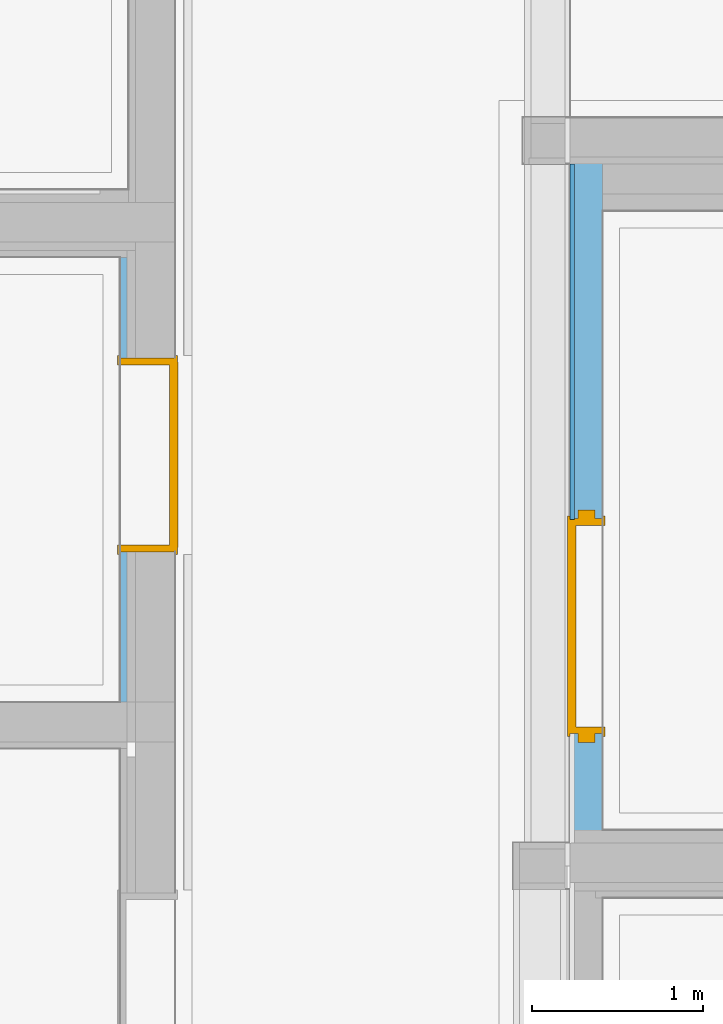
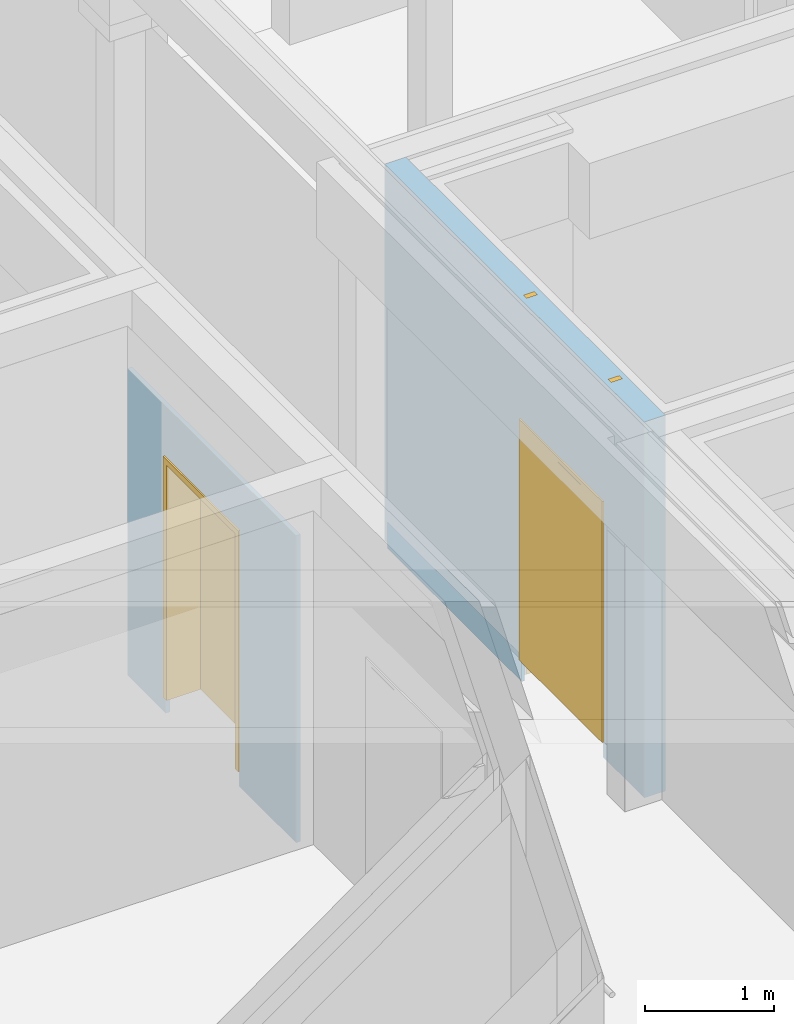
# One storey, part 119 of 222: 2 doors, 1 wall, 2 openings, plus 2 elements that do not belong to this part.
"""IFC4 building model written with IfcOpenShell, lengths in metres."""

from ifc_helpers import new_model, entity, si_unit, converted_unit, derived_unit, frame, frame_2d, origin, origin_with_axes, place, context, subcontext, project, spatial, polyline, rectangle, outline, extrude, faceted_brep, source, transform, mapped, material, type_object, element, fill, save


model = new_model("IFC4")

# Units and contexts
model_context = context("Model", 3, precision=1e-05, world=origin())
body_context = subcontext(model_context, "Body", "Model", "MODEL_VIEW")
ifc_project = project(units=[si_unit("LENGTHUNIT", "METRE"), si_unit("AREAUNIT", "SQUARE_METRE"), si_unit("VOLUMEUNIT", "CUBIC_METRE"), si_unit("MASSUNIT", "GRAM", prefix="KILO"), converted_unit("PLANEANGLEUNIT", "DEGREE", entity("IfcPlaneAngleMeasure", 0.0174532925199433), si_unit("PLANEANGLEUNIT", "RADIAN"), dimensions=[0, 0, 0, 0, 0, 0, 0]), derived_unit("THERMALTRANSMITTANCEUNIT", [(si_unit("POWERUNIT", "WATT"), 1), (si_unit("THERMODYNAMICTEMPERATUREUNIT", "KELVIN"), -1), (si_unit("LENGTHUNIT", "METRE"), -2)]), derived_unit("VOLUMETRICFLOWRATEUNIT", [(si_unit("LENGTHUNIT", "METRE"), 3), (converted_unit("TIMEUNIT", "hour", entity("IfcTimeMeasure", 3600.0), si_unit("TIMEUNIT", "SECOND"), dimensions=[0, 0, 1, 0, 0, 0, 0]), -1), (si_unit("LENGTHUNIT", "METRE"), -1)])], contexts=[model_context])

# Site, building, storey
site_placement = place(None, origin())
site = spatial("IfcSite", under=ifc_project, at=site_placement, Name="Psychiatrie Neubau Wunstorf", CompositionType="ELEMENT")
building_placement = place(site_placement, origin())
building = spatial("IfcBuilding", under=site, at=building_placement, Name="Neubau H2 Stationsgebäude", CompositionType="ELEMENT")
storey_placement = place(building_placement, frame((0.0, 0.0, 3.6)))
storey = spatial("IfcBuildingStorey", under=building, at=storey_placement, Name="H2 Ebene +1", CompositionType="ELEMENT", Elevation=3.6)

# Wall, opening, door
ifc_material_1 = material(Name="WI-LB")
wall_1_placement = place(storey_placement, frame((67.7955, 16.014000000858, 0.0), z_axis=(0.0, 0.0, 1.0), x_axis=(0.0, -1.0, 0.0)))
wall_1 = element("IfcWall", 1, at=wall_1_placement, inside=storey, material=ifc_material_1, context=body_context, shape_type="SweptSolid", body=[
    extrude(rectangle(XDim=2.60450336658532, YDim=0.04, at=frame_2d((1.30225168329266, 0.02), x_axis=(1.0, 0.0))), origin_with_axes(), (0.0, 0.0, 1.0), 2.9),
])
opening_1_placement = place(wall_1_placement, frame((1.724, 0.04, 0.0), z_axis=(0.0, -1.0, 0.0), x_axis=(0.0, 0.0, 1.0)))
opening_1 = element("IfcOpeningElement", 2, at=opening_1_placement, cuts=wall_1, Name="Türöffnung", ObjectType="Opening", context=body_context, shape_type="SweptSolid", body=[
    extrude(outline(polyline([(2.41, 1.135), (2.41, 0.0), (0.0, 0.0), (0.0, 1.135), (2.41, 1.135)])), origin_with_axes(), (0.0, 0.0, 1.0), 0.04),
])
ifc_material_2 = material(Name="TI-1F-UZ-D")
door_type_1 = type_object("IfcDoorType", Name="SMT", OperationType="SINGLE_SWING_RIGHT", ParameterTakesPrecedence=False, PredefinedType="DOOR")
shared_shape_1 = source(origin_with_axes(), body_context, "Body", "Brep", [
    faceted_brep([(0.0, -0.0150000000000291, 2.41), (0.0400000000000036, -0.0150000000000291, 2.41), (0.0400000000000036, -0.0150000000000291, 0.15), (0.0, -0.0150000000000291, 0.15), (0.0, 0.336999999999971, 0.15), (0.0400000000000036, 0.336999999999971, 0.15), (0.0400000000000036, 0.336999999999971, 2.41), (0.0, 0.336999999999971, 2.41)], [[[0, 1, 2, 3]], [[4, 5, 6, 7]], [[3, 4, 7, 0]], [[2, 5, 4, 3]], [[1, 6, 5, 2]], [[0, 7, 6, 1]]], orient=[[False], [False], [False], [False], [False], [False]]),
    faceted_brep([(0.0, -0.0150000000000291, 2.425), (0.0, -0.0150000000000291, 0.15), (-0.0149999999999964, -0.0150000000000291, 0.15), (-0.0149999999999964, -0.0150000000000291, 2.425), (0.0, 0.0, 0.15), (0.0, 0.0, 2.425), (-0.0149999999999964, 0.0, 2.425), (-0.0149999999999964, 0.0, 0.15)], [[[0, 1, 2, 3]], [[4, 5, 6, 7]], [[1, 0, 5, 4]], [[2, 1, 4, 7]], [[3, 2, 7, 6]], [[0, 3, 6, 5]]], orient=[[False], [False], [False], [False], [False], [False]]),
    faceted_brep([(0.0, 0.321999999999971, 2.425), (0.0, 0.321999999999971, 0.15), (-0.0149999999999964, 0.321999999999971, 0.15), (-0.0149999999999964, 0.321999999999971, 2.425), (0.0, 0.336999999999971, 0.15), (0.0, 0.336999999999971, 2.425), (-0.0149999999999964, 0.336999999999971, 2.425), (-0.0149999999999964, 0.336999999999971, 0.15)], [[[0, 1, 2, 3]], [[4, 5, 6, 7]], [[1, 0, 5, 4]], [[2, 1, 4, 7]], [[3, 2, 7, 6]], [[0, 3, 6, 5]]], orient=[[False], [False], [False], [False], [False], [False]]),
    faceted_brep([(1.095, -0.0150000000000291, 2.41), (1.135, -0.0150000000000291, 2.41), (1.135, -0.0150000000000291, 0.15), (1.095, -0.0150000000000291, 0.15), (1.095, 0.336999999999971, 0.15), (1.135, 0.336999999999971, 0.15), (1.135, 0.336999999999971, 2.41), (1.095, 0.336999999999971, 2.41)], [[[0, 1, 2, 3]], [[4, 5, 6, 7]], [[3, 4, 7, 0]], [[2, 5, 4, 3]], [[1, 6, 5, 2]], [[0, 7, 6, 1]]], orient=[[False], [False], [False], [False], [False], [False]]),
    faceted_brep([(1.135, -0.0150000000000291, 2.425), (1.15, -0.0150000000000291, 2.425), (1.15, -0.0150000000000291, 0.15), (1.135, -0.0150000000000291, 0.15), (1.135, 0.0, 0.15), (1.15, 0.0, 0.15), (1.15, 0.0, 2.425), (1.135, 0.0, 2.425)], [[[0, 1, 2, 3]], [[4, 5, 6, 7]], [[3, 4, 7, 0]], [[2, 5, 4, 3]], [[1, 6, 5, 2]], [[0, 7, 6, 1]]], orient=[[False], [False], [False], [False], [False], [False]]),
    faceted_brep([(1.135, 0.321999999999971, 2.425), (1.15, 0.321999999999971, 2.425), (1.15, 0.321999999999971, 0.15), (1.135, 0.321999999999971, 0.15), (1.135, 0.336999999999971, 0.15), (1.15, 0.336999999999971, 0.15), (1.15, 0.336999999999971, 2.425), (1.135, 0.336999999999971, 2.425)], [[[0, 1, 2, 3]], [[4, 5, 6, 7]], [[3, 4, 7, 0]], [[2, 5, 4, 3]], [[1, 6, 5, 2]], [[0, 7, 6, 1]]], orient=[[False], [False], [False], [False], [False], [False]]),
    faceted_brep([(0.0400000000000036, -0.0150000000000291, 2.41), (1.095, -0.0150000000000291, 2.41), (1.095, -0.0150000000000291, 2.37), (0.0400000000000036, -0.0150000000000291, 2.37), (0.0400000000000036, 0.336999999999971, 2.37), (1.095, 0.336999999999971, 2.37), (1.095, 0.336999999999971, 2.41), (0.0400000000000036, 0.336999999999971, 2.41)], [[[0, 1, 2, 3]], [[4, 5, 6, 7]], [[3, 4, 7, 0]], [[2, 5, 4, 3]], [[1, 6, 5, 2]], [[0, 7, 6, 1]]], orient=[[False], [False], [False], [False], [False], [False]]),
    faceted_brep([(0.0, -0.0150000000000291, 2.425), (1.135, -0.0150000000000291, 2.425), (1.135, -0.0150000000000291, 2.41), (0.0, -0.0150000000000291, 2.41), (0.0, 0.0, 2.41), (1.135, 0.0, 2.41), (1.135, 0.0, 2.425), (0.0, 0.0, 2.425)], [[[0, 1, 2, 3]], [[4, 5, 6, 7]], [[3, 4, 7, 0]], [[2, 5, 4, 3]], [[1, 6, 5, 2]], [[0, 7, 6, 1]]], orient=[[False], [False], [False], [False], [False], [False]]),
    faceted_brep([(0.0, 0.321999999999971, 2.425), (1.135, 0.321999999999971, 2.425), (1.135, 0.321999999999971, 2.41), (0.0, 0.321999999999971, 2.41), (0.0, 0.336999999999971, 2.41), (1.135, 0.336999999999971, 2.41), (1.135, 0.336999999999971, 2.425), (0.0, 0.336999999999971, 2.425)], [[[0, 1, 2, 3]], [[4, 5, 6, 7]], [[3, 4, 7, 0]], [[2, 5, 4, 3]], [[1, 6, 5, 2]], [[0, 7, 6, 1]]], orient=[[False], [False], [False], [False], [False], [False]]),
    faceted_brep([(0.0250000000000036, 0.287999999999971, 2.385), (1.11, 0.287999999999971, 2.385), (1.11, 0.287999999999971, 0.15), (0.0250000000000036, 0.287999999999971, 0.15), (0.0250000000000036, 0.337999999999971, 0.15), (1.11, 0.337999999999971, 0.15), (1.11, 0.337999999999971, 2.385), (0.0250000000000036, 0.337999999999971, 2.385)], [[[0, 1, 2, 3]], [[4, 5, 6, 7]], [[3, 4, 7, 0]], [[2, 5, 4, 3]], [[1, 6, 5, 2]], [[0, 7, 6, 1]]], orient=[[False], [False], [False], [False], [False], [False]]),
])
door_1_placement = place(opening_1_placement, frame((0.0, 1.135, 0.04), z_axis=(1.0, 0.0, 0.0), x_axis=(0.0, -1.0, 0.0)))
door_1 = element("IfcDoor", 3, at=door_1_placement, inside=storey, type_object=door_type_1, material=ifc_material_2, Name="SMT", OverallHeight=2.41, OverallWidth=1.135, context=body_context, shape_type="MappedRepresentation", body=[
    mapped(shared_shape_1, transform((0.0, 0.0, 0.0), x_axis=(1.0, 0.0, 0.0), y_axis=(0.0, 1.0, 0.0), z_axis=(0.0, 0.0, 1.0), scale=1.0)),
])
fill(opening_1, door_1)

ifc_material_3 = material(Name="WI-LB")
wall_2_placement = place(storey_placement, frame((70.4300000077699, 16.6005, 0.0), z_axis=(0.0, 0.0, 1.0), x_axis=(0.0, -1.0, 0.0)))
wall_2 = element("IfcWall", 4, at=wall_2_placement, inside=storey, material=ifc_material_3, context=body_context, shape_type="SweptSolid", body=[
    extrude(rectangle(XDim=4.01449999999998, YDim=0.19, at=frame_2d((2.00724999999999, 0.095), x_axis=(1.0, 0.0))), origin_with_axes(), (0.0, 0.0, 1.0), 3.55),
])
opening_2_placement = place(wall_2_placement, frame((3.37549999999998, 0.19, 0.0), z_axis=(0.0, -1.0, 0.0), x_axis=(0.0, 0.0, 1.0)))
opening_2 = element("IfcOpeningElement", 5, at=opening_2_placement, cuts=wall_2, Name="Türöffnung", ObjectType="Opening", context=body_context, shape_type="SweptSolid", body=[
    extrude(outline(polyline([(2.41, 1.26), (2.41, 0.0), (0.0, 0.0), (0.0, 1.26), (2.41, 1.26)])), origin_with_axes(), (0.0, 0.0, 1.0), 0.19),
])
ifc_material_4 = material(Name="TI-1F-UZ-ZK")
door_type_2 = type_object("IfcDoorType", Name="SMT", OperationType="SINGLE_SWING_RIGHT", ParameterTakesPrecedence=False, PredefinedType="DOOR")
shared_shape_2 = source(origin_with_axes(), body_context, "Body", "Brep", [
    faceted_brep([(1.31, 0.0450000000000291, 0.0), (1.31, 0.145000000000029, 0.0), (1.26, 0.145000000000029, 0.0), (1.26, 0.0450000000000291, 0.0), (1.31, 0.145000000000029, 3.55), (1.31, 0.0450000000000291, 3.55), (1.26, 0.0450000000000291, 3.55), (1.26, 0.145000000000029, 3.55)], [[[0, 1, 2, 3]], [[4, 5, 6, 7]], [[1, 0, 5, 4]], [[2, 1, 4, 7]], [[3, 2, 7, 6]], [[0, 3, 6, 5]]], orient=[[False], [False], [False], [False], [False], [False]]),
    faceted_brep([(0.0, 0.0450000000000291, 0.0), (0.0, 0.145000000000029, 0.0), (-0.0500000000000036, 0.145000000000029, 0.0), (-0.0500000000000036, 0.0450000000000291, 0.0), (0.0, 0.145000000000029, 3.55), (0.0, 0.0450000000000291, 3.55), (-0.0500000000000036, 0.0450000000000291, 3.55), (-0.0500000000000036, 0.145000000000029, 3.55)], [[[0, 1, 2, 3]], [[4, 5, 6, 7]], [[1, 0, 5, 4]], [[2, 1, 4, 7]], [[3, 2, 7, 6]], [[0, 3, 6, 5]]], orient=[[False], [False], [False], [False], [False], [False]]),
    faceted_brep([(1.26, 0.0450000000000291, 2.41), (1.26, 0.145000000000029, 2.41), (0.0, 0.145000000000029, 2.41), (0.0, 0.0450000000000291, 2.41), (1.26, 0.145000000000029, 2.46), (1.26, 0.0450000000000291, 2.46), (0.0, 0.0450000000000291, 2.46), (0.0, 0.145000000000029, 2.46)], [[[0, 1, 2, 3]], [[4, 5, 6, 7]], [[1, 0, 5, 4]], [[2, 1, 4, 7]], [[3, 2, 7, 6]], [[0, 3, 6, 5]]], orient=[[False], [False], [False], [False], [False], [False]]),
])
shared_shape_3 = source(origin_with_axes(), body_context, "Body", "Brep", [
    faceted_brep([(0.0, -0.0149999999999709, 2.41), (0.0399999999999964, -0.0149999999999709, 2.41), (0.0399999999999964, -0.0149999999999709, 0.15), (0.0, -0.0149999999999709, 0.15), (0.0, 0.205000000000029, 0.15), (0.0399999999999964, 0.205000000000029, 0.15), (0.0399999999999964, 0.205000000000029, 2.41), (0.0, 0.205000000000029, 2.41)], [[[0, 1, 2, 3]], [[4, 5, 6, 7]], [[3, 4, 7, 0]], [[2, 5, 4, 3]], [[1, 6, 5, 2]], [[0, 7, 6, 1]]], orient=[[False], [False], [False], [False], [False], [False]]),
    faceted_brep([(0.0, -0.0149999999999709, 2.425), (0.0, -0.0149999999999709, 0.15), (-0.0150000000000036, -0.0149999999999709, 0.15), (-0.0150000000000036, -0.0149999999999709, 2.425), (0.0, 0.0, 0.15), (0.0, 0.0, 2.425), (-0.0150000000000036, 0.0, 2.425), (-0.0150000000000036, 0.0, 0.15)], [[[0, 1, 2, 3]], [[4, 5, 6, 7]], [[1, 0, 5, 4]], [[2, 1, 4, 7]], [[3, 2, 7, 6]], [[0, 3, 6, 5]]], orient=[[False], [False], [False], [False], [False], [False]]),
    faceted_brep([(0.0, 0.190000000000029, 2.425), (0.0, 0.190000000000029, 0.15), (-0.0150000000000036, 0.190000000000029, 0.15), (-0.0150000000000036, 0.190000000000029, 2.425), (0.0, 0.205000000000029, 0.15), (0.0, 0.205000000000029, 2.425), (-0.0150000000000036, 0.205000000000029, 2.425), (-0.0150000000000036, 0.205000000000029, 0.15)], [[[0, 1, 2, 3]], [[4, 5, 6, 7]], [[1, 0, 5, 4]], [[2, 1, 4, 7]], [[3, 2, 7, 6]], [[0, 3, 6, 5]]], orient=[[False], [False], [False], [False], [False], [False]]),
    faceted_brep([(1.22, -0.0149999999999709, 2.41), (1.26, -0.0149999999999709, 2.41), (1.26, -0.0149999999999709, 0.15), (1.22, -0.0149999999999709, 0.15), (1.22, 0.205000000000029, 0.15), (1.26, 0.205000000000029, 0.15), (1.26, 0.205000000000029, 2.41), (1.22, 0.205000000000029, 2.41)], [[[0, 1, 2, 3]], [[4, 5, 6, 7]], [[3, 4, 7, 0]], [[2, 5, 4, 3]], [[1, 6, 5, 2]], [[0, 7, 6, 1]]], orient=[[False], [False], [False], [False], [False], [False]]),
    faceted_brep([(1.26, -0.0149999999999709, 2.425), (1.275, -0.0149999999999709, 2.425), (1.275, -0.0149999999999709, 0.15), (1.26, -0.0149999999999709, 0.15), (1.26, 0.0, 0.15), (1.275, 0.0, 0.15), (1.275, 0.0, 2.425), (1.26, 0.0, 2.425)], [[[0, 1, 2, 3]], [[4, 5, 6, 7]], [[3, 4, 7, 0]], [[2, 5, 4, 3]], [[1, 6, 5, 2]], [[0, 7, 6, 1]]], orient=[[False], [False], [False], [False], [False], [False]]),
    faceted_brep([(1.26, 0.190000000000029, 2.425), (1.275, 0.190000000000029, 2.425), (1.275, 0.190000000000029, 0.15), (1.26, 0.190000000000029, 0.15), (1.26, 0.205000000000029, 0.15), (1.275, 0.205000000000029, 0.15), (1.275, 0.205000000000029, 2.425), (1.26, 0.205000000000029, 2.425)], [[[0, 1, 2, 3]], [[4, 5, 6, 7]], [[3, 4, 7, 0]], [[2, 5, 4, 3]], [[1, 6, 5, 2]], [[0, 7, 6, 1]]], orient=[[False], [False], [False], [False], [False], [False]]),
    faceted_brep([(0.0399999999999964, -0.0149999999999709, 2.41), (1.22, -0.0149999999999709, 2.41), (1.22, -0.0149999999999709, 2.37), (0.0399999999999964, -0.0149999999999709, 2.37), (0.0399999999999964, 0.205000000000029, 2.37), (1.22, 0.205000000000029, 2.37), (1.22, 0.205000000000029, 2.41), (0.0399999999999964, 0.205000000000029, 2.41)], [[[0, 1, 2, 3]], [[4, 5, 6, 7]], [[3, 4, 7, 0]], [[2, 5, 4, 3]], [[1, 6, 5, 2]], [[0, 7, 6, 1]]], orient=[[False], [False], [False], [False], [False], [False]]),
    faceted_brep([(0.0, -0.0149999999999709, 2.425), (1.26, -0.0149999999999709, 2.425), (1.26, -0.0149999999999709, 2.41), (0.0, -0.0149999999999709, 2.41), (0.0, 0.0, 2.41), (1.26, 0.0, 2.41), (1.26, 0.0, 2.425), (0.0, 0.0, 2.425)], [[[0, 1, 2, 3]], [[4, 5, 6, 7]], [[3, 4, 7, 0]], [[2, 5, 4, 3]], [[1, 6, 5, 2]], [[0, 7, 6, 1]]], orient=[[False], [False], [False], [False], [False], [False]]),
    faceted_brep([(0.0, 0.190000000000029, 2.425), (1.26, 0.190000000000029, 2.425), (1.26, 0.190000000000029, 2.41), (0.0, 0.190000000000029, 2.41), (0.0, 0.205000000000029, 2.41), (1.26, 0.205000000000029, 2.41), (1.26, 0.205000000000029, 2.425), (0.0, 0.205000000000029, 2.425)], [[[0, 1, 2, 3]], [[4, 5, 6, 7]], [[3, 4, 7, 0]], [[2, 5, 4, 3]], [[1, 6, 5, 2]], [[0, 7, 6, 1]]], orient=[[False], [False], [False], [False], [False], [False]]),
    faceted_brep([(0.0249999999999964, 0.156000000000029, 2.385), (1.235, 0.156000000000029, 2.385), (1.235, 0.156000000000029, 0.15), (0.0249999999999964, 0.156000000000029, 0.15), (0.0249999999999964, 0.206000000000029, 0.15), (1.235, 0.206000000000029, 0.15), (1.235, 0.206000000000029, 2.385), (0.0249999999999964, 0.206000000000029, 2.385)], [[[0, 1, 2, 3]], [[4, 5, 6, 7]], [[3, 4, 7, 0]], [[2, 5, 4, 3]], [[1, 6, 5, 2]], [[0, 7, 6, 1]]], orient=[[False], [False], [False], [False], [False], [False]]),
])
door_2_placement = place(opening_2_placement, frame((0.0, 0.0, 0.0), z_axis=(1.0, 0.0, 0.0), x_axis=(0.0, 1.0, 0.0)))
door_2 = element("IfcDoor", 6, at=door_2_placement, inside=storey, type_object=door_type_2, material=ifc_material_4, Name="SMT", OverallHeight=2.41, OverallWidth=1.26, context=body_context, shape_type="MappedRepresentation", body=[
    mapped(shared_shape_2, transform((0.0, 0.0, 0.0), x_axis=(1.0, 0.0, 0.0), y_axis=(0.0, 1.0, 0.0), z_axis=(0.0, 0.0, 1.0), scale=1.0)),
    mapped(shared_shape_3, transform((0.0, 0.0, 0.0), x_axis=(1.0, 0.0, 0.0), y_axis=(0.0, 1.0, 0.0), z_axis=(0.0, 0.0, 1.0), scale=1.0)),
])
fill(opening_2, door_2)

# Wall
wall_3_placement = place(storey_placement, frame((70.43, 14.4805, -0.05)))
element("IfcWall", 7, at=wall_3_placement, inside=storey, Name="WV 1.1", context=body_context, shape_type="Brep", body=[
    faceted_brep([(0.0, 0.0, 0.0), (0.025, 0.0, 0.0), (0.025, 2.08, 0.0), (0.0, 2.08, 0.0), (0.025, 0.0, 0.25), (0.0, 0.0, 0.25), (0.0, 2.08, 0.25), (0.025, 2.08, 0.25)], [[[0, 1, 2, 3]], [[4, 5, 6, 7]], [[1, 0, 5, 4]], [[2, 1, 4, 7]], [[3, 2, 7, 6]], [[0, 3, 6, 5]]], orient=[[False], [False], [False], [False], [False], [False]]),
])

save(model, "model.ifc")
